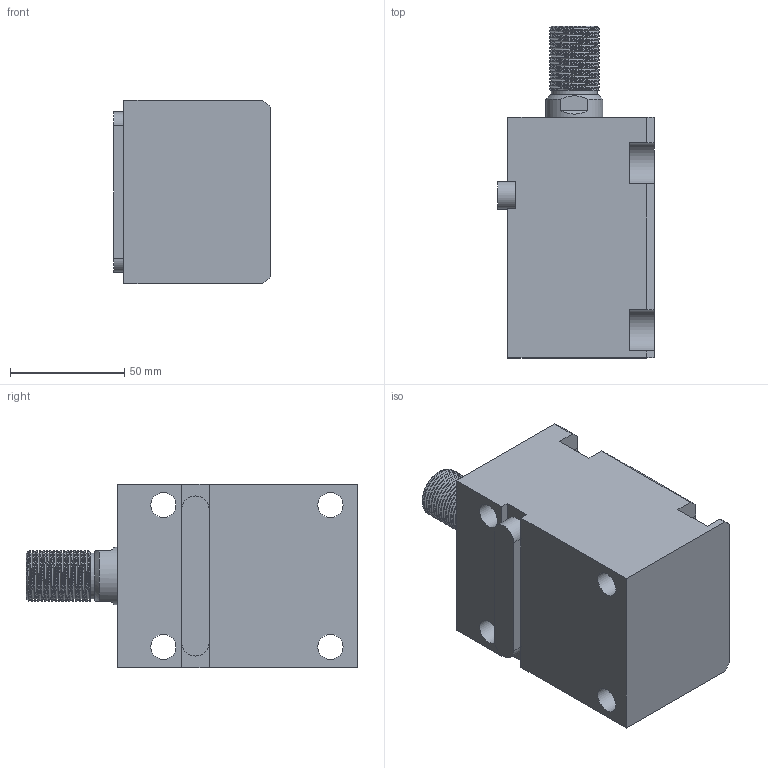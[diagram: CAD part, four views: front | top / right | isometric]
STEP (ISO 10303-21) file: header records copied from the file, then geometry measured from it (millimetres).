
FILE_DESCRIPTION(/* description */ (''),/* implementation_level */ '2;1');
FILE_NAME(/* name */ 'CHTB-la40x50w.stp',/* time_stamp */ '2022-04-29T17:26:56+08:00',/* author */ (''),/* organization */ (''),/* preprocessor_version */ 'ST-DEVELOPER v16.7',/* originating_system */ 'SIEMENS PLM Software NX 12.0',/* authorisation */ '');
FILE_SCHEMA (('AUTOMOTIVE_DESIGN { 1 0 10303 214 3 1 1 1 }'));
Length unit declared in the file: millimetre
Products named in the file (1): CHTB-la40x50w
Bounding box: 68.5 x 145 x 80 mm (x, y, z)
Volume: 477426.4 mm3; surface area: 91707.2 mm2
Topology: 4 solids, 5 shells, 453 faces, 1290 edges, 886 vertices
Faces by surface type: plane 302, extrusion 86, cylinder 40, torus 10, bspline 8, cone 7
Full cylindrical faces by diameter (mm): 4.2 x2, 5 x3, 10.7 x2, 11 x4, 20 x1, 25 x2, 29 x1, 34 x2, 40 x4, 45 x1
Entity records: 22592 total; most frequent: CARTESIAN_POINT 9110, ORIENTED_EDGE 2468, DIRECTION 1842, EDGE_CURVE 1234, VECTOR 934, VERTEX_POINT 873, LINE 848, EDGE_LOOP 547
